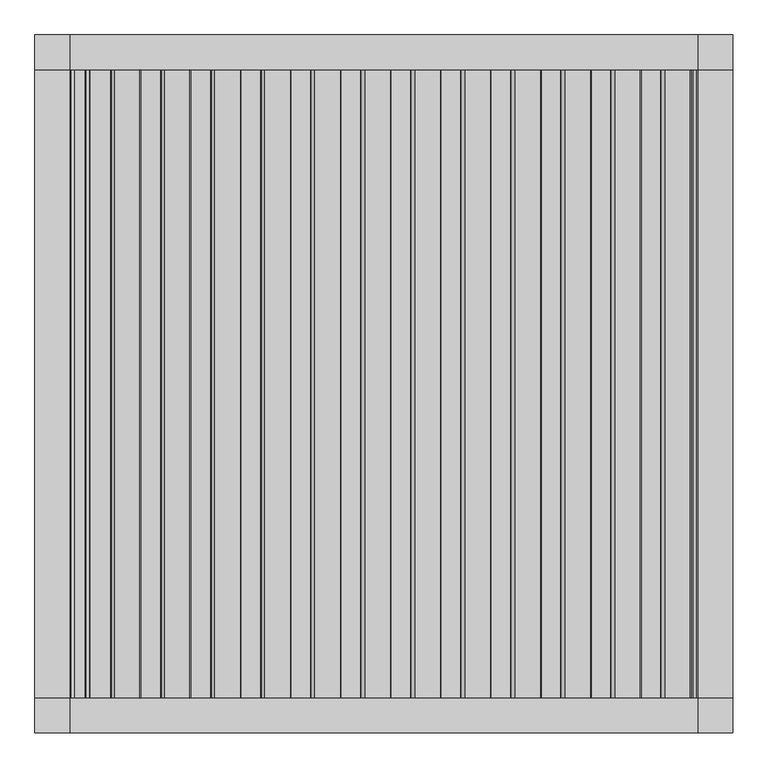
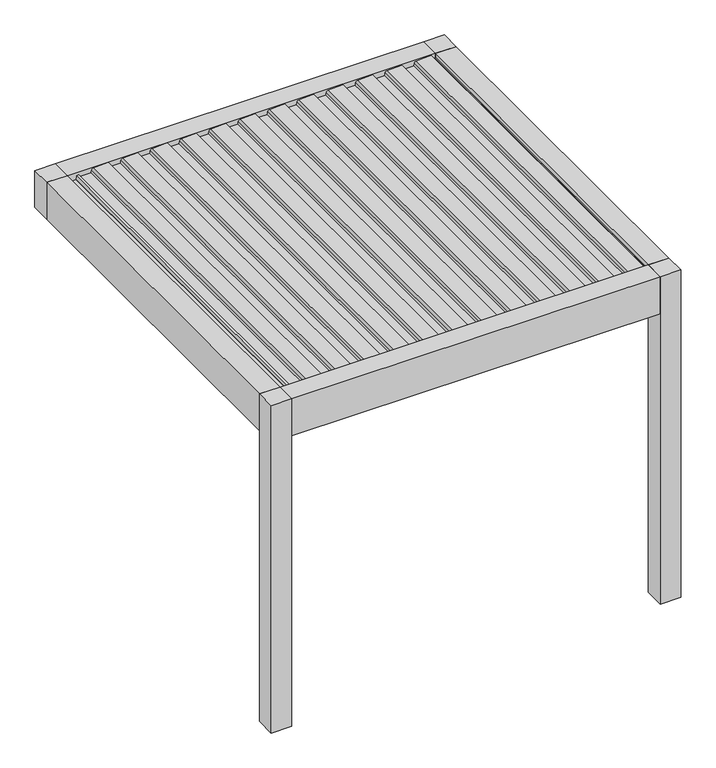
"""IFC4 building model written with IfcOpenShell, lengths in millimetres: proxy geometry, Renson_Amani_Patio_Cover : Renson_Amani_Patio_Cover."""

import ifcopenshell
import ifcopenshell.guid

model = None  # the IFC model being written
_history = None  # IfcOwnerHistory: only IFC2X3 demands one
_inside = {}  # id of a spatial element -> (the spatial element, [elements in it])
_under = {}  # id of a project, library or spatial element -> (it, [spatial elements below it])
_declared = {}  # id of a project -> (the project, [libraries it declares])
_typed = {}  # id of a type object -> (the type object, [elements of that type])
_made_of = {}  # id of a material, layer set ... -> (it, [elements and type objects made of it])


def new_model(schema):
    """Start an empty IFC model of exactly this schema.

    Asked for "IFC4X3", IfcOpenShell would pick the latest addendum, in which some entities
    have other attributes; the version numbers below select the first issue.
    IFC2X3 requires an IfcOwnerHistory on every rooted entity: one is made here for all.
    """
    global model, _history
    if schema == "IFC4X3":
        model = ifcopenshell.file(schema_version=(4, 3, 0, 0))
    else:
        model = ifcopenshell.file(schema=schema)
    _inside.clear()
    _under.clear()
    _declared.clear()
    _typed.clear()
    _made_of.clear()
    _history = None
    if model.schema == "IFC2X3":
        org = make("IfcOrganization", Name="unknown")
        user = make(
            "IfcPersonAndOrganization",
            ThePerson=make("IfcPerson", FamilyName="unknown"),
            TheOrganization=org,
        )
        app = make(
            "IfcApplication",
            ApplicationDeveloper=org,
            Version="unknown",
            ApplicationFullName="unknown",
            ApplicationIdentifier="unknown",
        )
        _history = make(
            "IfcOwnerHistory",
            OwningUser=user,
            OwningApplication=app,
            ChangeAction="ADDED",
            CreationDate=0,
        )
    return model


def make(cls, **values):
    """One entity of the class cls with the attributes given. An attribute that is None is left unset."""
    return model.create_entity(
        cls, **{name: value for name, value in values.items() if value is not None}
    )


def rooted(cls, **values):
    """An entity with a GlobalId (a new one), such as an element, a storey or a relation."""
    return make(cls, GlobalId=ifcopenshell.guid.new(), OwnerHistory=_history, **values)


def si_unit(unit_type, name, prefix=None):
    """IfcSIUnit, for example si_unit("LENGTHUNIT", "METRE", prefix="MILLI")."""
    return make("IfcSIUnit", UnitType=unit_type, Prefix=prefix, Name=name)


def assignment(units):
    """IfcUnitAssignment: the units of a project."""
    return None if units is None else make("IfcUnitAssignment", Units=units)


def point(xyz):
    """IfcCartesianPoint."""
    return None if xyz is None else make("IfcCartesianPoint", Coordinates=xyz)


def direction(xyz):
    """IfcDirection."""
    return None if xyz is None else make("IfcDirection", DirectionRatios=xyz)


def frame(location, z_axis=None, x_axis=None):
    """IfcAxis2Placement3D, a coordinate frame: its origin and axes. An axis left out is left unset."""
    return make(
        "IfcAxis2Placement3D",
        Location=point(location),
        Axis=direction(z_axis),
        RefDirection=direction(x_axis),
    )


def frame_2d(location, x_axis=None):
    """IfcAxis2Placement2D, a coordinate frame in the plane: its origin and x axis."""
    return make(
        "IfcAxis2Placement2D", Location=point(location), RefDirection=direction(x_axis)
    )


def origin():
    """The frame at (0, 0, 0) with its axes left unset."""
    return frame((0.0, 0.0, 0.0))


def origin_with_axes():
    """The frame at (0, 0, 0) with the z axis (0, 0, 1) and the x axis (1, 0, 0) written out."""
    return frame((0.0, 0.0, 0.0), z_axis=(0.0, 0.0, 1.0), x_axis=(1.0, 0.0, 0.0))


def place(relative_to, where):
    """IfcLocalPlacement: puts the frame where relative to a parent placement (None: the world)."""
    return make(
        "IfcLocalPlacement", PlacementRelTo=relative_to, RelativePlacement=where
    )


def context(
    kind, dimensions, precision=None, world=None, true_north=None, identifier=None
):
    """IfcGeometricRepresentationContext, for example the 3D "Model" context."""
    return make(
        "IfcGeometricRepresentationContext",
        ContextIdentifier=identifier,
        ContextType=kind,
        CoordinateSpaceDimension=dimensions,
        Precision=precision,
        WorldCoordinateSystem=world,
        TrueNorth=true_north,
    )


def project(units=None, contexts=None):
    """IfcProject with its units and contexts."""
    return rooted(
        "IfcProject",
        Name="project",
        RepresentationContexts=contexts,
        UnitsInContext=assignment(units),
    )


def spatial(cls, under=None, at=None, **own):
    """A site, building, storey or space (cls), placed at a placement, below another one or the project."""
    s = rooted(cls, ObjectPlacement=at, **own)
    if under is not None:
        _under.setdefault(under.id(), (under, []))[1].append(s)
    return s


def polyline(points):
    """IfcPolyline through the points."""
    return make("IfcPolyline", Points=[point(p) for p in points])


def circle_curve(where, radius):
    """IfcCircle in the frame where."""
    return make("IfcCircle", Position=where, Radius=radius)


def trimmed(basis, trim1, trim2, sense, master):
    """IfcTrimmedCurve: the piece of a basis curve between two trims."""
    return make(
        "IfcTrimmedCurve",
        BasisCurve=basis,
        Trim1=trim1,
        Trim2=trim2,
        SenseAgreement=sense,
        MasterRepresentation=master,
    )


def segment(curve, same_sense, transition):
    """IfcCompositeCurveSegment."""
    return make(
        "IfcCompositeCurveSegment",
        Transition=transition,
        SameSense=same_sense,
        ParentCurve=curve,
    )


def composite_curve(segments, self_intersect=None):
    """IfcCompositeCurve: segments joined end to end."""
    return make("IfcCompositeCurve", Segments=segments, SelfIntersect=self_intersect)


def outline(outer, holes=None, kind="AREA"):
    """IfcArbitraryClosedProfileDef: a profile drawn as a closed curve; with holes, ...WithVoids."""
    if holes is None:
        return make("IfcArbitraryClosedProfileDef", ProfileType=kind, OuterCurve=outer)
    return make(
        "IfcArbitraryProfileDefWithVoids",
        ProfileType=kind,
        OuterCurve=outer,
        InnerCurves=holes,
    )


def extrude(swept, where, along, depth):
    """IfcExtrudedAreaSolid: the profile swept, set in the frame where, extruded along a direction by depth."""
    return make(
        "IfcExtrudedAreaSolid",
        SweptArea=swept,
        Position=where,
        ExtrudedDirection=direction(along),
        Depth=depth,
    )


def shape(context_of_items, identifier, shape_type, items):
    """IfcShapeRepresentation: the items that make up one representation, for example the "Body"."""
    return make(
        "IfcShapeRepresentation",
        ContextOfItems=context_of_items,
        RepresentationIdentifier=identifier,
        RepresentationType=shape_type,
        Items=items,
    )


def source(mapping_origin, context_of_items, identifier, shape_type, items):
    """IfcRepresentationMap: a shape defined once, which mapped items show again and again."""
    return make(
        "IfcRepresentationMap",
        MappingOrigin=mapping_origin,
        MappedRepresentation=shape(context_of_items, identifier, shape_type, items),
    )


def transform(
    local_origin,
    x_axis=None,
    y_axis=None,
    z_axis=None,
    scale=None,
    scale2=None,
    scale3=None,
    uniform=True,
):
    """IfcCartesianTransformationOperator3D, or its non-uniform kind. x_axis, y_axis, z_axis: its Axis1, 2, 3."""
    if uniform:
        return make(
            "IfcCartesianTransformationOperator3D",
            Axis1=direction(x_axis),
            Axis2=direction(y_axis),
            LocalOrigin=point(local_origin),
            Scale=scale,
            Axis3=direction(z_axis),
        )
    return make(
        "IfcCartesianTransformationOperator3DnonUniform",
        Axis1=direction(x_axis),
        Axis2=direction(y_axis),
        LocalOrigin=point(local_origin),
        Scale=scale,
        Axis3=direction(z_axis),
        Scale2=scale2,
        Scale3=scale3,
    )


def mapped(mapping_source, mapping_target):
    """IfcMappedItem: shows the shape of a source again, moved by a transform."""
    return make(
        "IfcMappedItem", MappingSource=mapping_source, MappingTarget=mapping_target
    )


def made_of(thing, what):
    """Note that an element or type object is made of a material, layer set ...; save() writes the relation."""
    if what is not None:
        _made_of.setdefault(what.id(), (what, []))[1].append(thing)
    return thing


def element(
    cls,
    number,
    at=None,
    inside=None,
    cuts=None,
    type_object=None,
    material=None,
    context=None,
    identifier="Body",
    shape_type=None,
    held_by="IfcProductDefinitionShape",
    body=None,
    shapes=None,
    **own,
):
    """One element of the class cls, such as IfcWall. Its Tag is "e" and its number.

    at: its placement. inside: the storey or other place that contains it. cuts: it is an
    opening in that element (IfcRelVoidsElement). A single representation is given by context,
    identifier, shape_type and body (its items); several are given by shapes. held_by: the class
    of the entity that holds the representations. save() writes the other relations.
    """
    e = rooted(cls, Tag="e%d" % number, ObjectPlacement=at, **own)
    if body is not None:
        shapes = [shape(context, identifier, shape_type, body)]
    if shapes is not None:
        e.Representation = make(held_by, Representations=shapes)
    if inside is not None:
        _inside.setdefault(inside.id(), (inside, []))[1].append(e)
    if cuts is not None:
        rooted(
            "IfcRelVoidsElement", RelatingBuildingElement=cuts, RelatedOpeningElement=e
        )
    if type_object is not None:
        _typed.setdefault(type_object.id(), (type_object, []))[1].append(e)
    return made_of(e, material)


def aggregate(whole, parts):
    """IfcRelAggregates: a whole, such as a stair, and the parts it consists of."""
    return rooted("IfcRelAggregates", RelatingObject=whole, RelatedObjects=parts)


def save(model, path):
    """Write the relations noted so far, then the file.

    IfcRelAggregates (storeys below a building ...), IfcRelContainedInSpatialStructure (elements
    in a storey), IfcRelDefinesByType, IfcRelAssociatesMaterial and IfcRelDeclares: one each for
    every whole, place, type object, material and project.
    """
    for whole, parts in _under.values():
        aggregate(whole, parts)
    for where, things in _inside.values():
        rooted(
            "IfcRelContainedInSpatialStructure",
            RelatedElements=things,
            RelatingStructure=where,
        )
    for kind, things in _typed.values():
        rooted("IfcRelDefinesByType", RelatedObjects=things, RelatingType=kind)
    for what, things in _made_of.values():
        rooted("IfcRelAssociatesMaterial", RelatedObjects=things, RelatingMaterial=what)
    for by, libraries in _declared.values():
        rooted("IfcRelDeclares", RelatingContext=by, RelatedDefinitions=libraries)
    model.write(path)


def generic_models_5084beef(model_context):
    return source(origin(), model_context, "Body", "SweptSolid", [
        extrude(outline(composite_curve([segment(polyline([(2483.35, 1073.7289238), (2511.01198, 1076.1490335), (2512.3970364, 1104.984284), (2531.8911096, 1101.5469529), (2526.6075693, 991.549838)]), True, "CONTINUOUS"), segment(trimmed(circle_curve(frame_2d((2511.6248435, 992.26951)), 15.0), [point((2526.6075693, 991.549838))], [point((2514.2295662, 977.4973937))], False, "CARTESIAN"), True, "CONTINUOUS"), segment(polyline([(2514.2295662, 977.4973937), (2495.0, 974.1067023), (2495.0, 886.3709263), (2512.0788237, 883.3594689), (2511.3450182, 868.0824984), (2483.35, 865.6332517), (2483.35, 1073.7289238)]), True, "CONTINUOUS")], self_intersect=False)), frame((0.0, -1350.0, 0.0), z_axis=(0.0, 1.0, 0.0), x_axis=(0.0, 0.0, 1.0)), (0.0, 0.0, 1.0), 2700.0),
        extrude(outline(composite_curve([segment(polyline([(2483.35, 858.7132078), (2511.01198, 861.1333174), (2512.3970364, 889.9685679), (2531.8911096, 886.5312368), (2526.6075693, 776.534122)]), True, "CONTINUOUS"), segment(trimmed(circle_curve(frame_2d((2511.6248435, 777.2537939)), 15.0), [point((2526.6075693, 776.534122))], [point((2514.2295662, 762.4816776))], False, "CARTESIAN"), True, "CONTINUOUS"), segment(polyline([(2514.2295662, 762.4816776), (2495.0, 759.0909863), (2495.0, 671.3552102), (2512.0788237, 668.3437528), (2511.3450182, 653.0667824), (2483.35, 650.6175356), (2483.35, 858.7132078)]), True, "CONTINUOUS")], self_intersect=False)), frame((0.0, -1350.0, 0.0), z_axis=(0.0, 1.0, 0.0), x_axis=(0.0, 0.0, 1.0)), (0.0, 0.0, 1.0), 2700.0),
        extrude(outline(composite_curve([segment(polyline([(2483.35, 643.6974917), (2511.01198, 646.1176014), (2512.3970364, 674.9528519), (2531.8911096, 671.5155208), (2526.6075693, 561.5184059)]), True, "CONTINUOUS"), segment(trimmed(circle_curve(frame_2d((2511.6248435, 562.2380779)), 15.0), [point((2526.6075693, 561.5184059))], [point((2514.2295662, 547.4659616))], False, "CARTESIAN"), True, "CONTINUOUS"), segment(polyline([(2514.2295662, 547.4659616), (2495.0, 544.0752702), (2495.0, 456.3394942), (2512.0788237, 453.3280368), (2511.3450182, 438.0510663), (2483.35, 435.6018196), (2483.35, 643.6974917)]), True, "CONTINUOUS")], self_intersect=False)), frame((0.0, -1350.0, 0.0), z_axis=(0.0, 1.0, 0.0), x_axis=(0.0, 0.0, 1.0)), (0.0, 0.0, 1.0), 2700.0),
        extrude(outline(composite_curve([segment(polyline([(2483.35, 428.6817757), (2511.01198, 431.1018854), (2512.3970364, 459.9371358), (2531.8911096, 456.4998047), (2526.6075693, 346.5026899)]), True, "CONTINUOUS"), segment(trimmed(circle_curve(frame_2d((2511.6248435, 347.2223618)), 15.0), [point((2526.6075693, 346.5026899))], [point((2514.2295662, 332.4502455))], False, "CARTESIAN"), True, "CONTINUOUS"), segment(polyline([(2514.2295662, 332.4502455), (2495.0, 329.0595542), (2495.0, 241.3237782), (2512.0788237, 238.3123207), (2511.3450182, 223.0353503), (2483.35, 220.5861035), (2483.35, 428.6817757)]), True, "CONTINUOUS")], self_intersect=False)), frame((0.0, -1350.0, 0.0), z_axis=(0.0, 1.0, 0.0), x_axis=(0.0, 0.0, 1.0)), (0.0, 0.0, 1.0), 2700.0),
        extrude(outline(composite_curve([segment(polyline([(2483.35, 213.6660597), (2511.01198, 216.0861693), (2512.3970364, 244.9214198), (2531.8911096, 241.4840887), (2526.6075693, 131.4869738)]), True, "CONTINUOUS"), segment(trimmed(circle_curve(frame_2d((2511.6248435, 132.2066458)), 15.0), [point((2526.6075693, 131.4869738))], [point((2514.2295662, 117.4345295))], False, "CARTESIAN"), True, "CONTINUOUS"), segment(polyline([(2514.2295662, 117.4345295), (2495.0, 114.0438381), (2495.0, 26.3080621), (2512.0788237, 23.2966047), (2511.3450182, 8.0196342), (2483.35, 5.5703875), (2483.35, 213.6660597)]), True, "CONTINUOUS")], self_intersect=False)), frame((0.0, -1350.0, 0.0), z_axis=(0.0, 1.0, 0.0), x_axis=(0.0, 0.0, 1.0)), (0.0, 0.0, 1.0), 2700.0),
        extrude(outline(composite_curve([segment(polyline([(2483.35, -1.3496564), (2511.01198, 1.0704533), (2512.3970364, 29.9057037), (2531.8911096, 26.4683726), (2526.6075693, -83.5287422)]), True, "CONTINUOUS"), segment(trimmed(circle_curve(frame_2d((2511.6248435, -82.8090703)), 15.0), [point((2526.6075693, -83.5287422))], [point((2514.2295662, -97.5811866))], False, "CARTESIAN"), True, "CONTINUOUS"), segment(polyline([(2514.2295662, -97.5811866), (2495.0, -100.9718779), (2495.0, -188.7076539), (2512.0788237, -191.7191114), (2511.3450182, -206.9960818), (2483.35, -209.4453286), (2483.35, -1.3496564)]), True, "CONTINUOUS")], self_intersect=False)), frame((0.0, -1350.0, 0.0), z_axis=(0.0, 1.0, 0.0), x_axis=(0.0, 0.0, 1.0)), (0.0, 0.0, 1.0), 2700.0),
        extrude(outline(composite_curve([segment(polyline([(2483.35, -216.3653724), (2511.01198, -213.9452628), (2512.3970364, -185.1100123), (2531.8911096, -188.5473434), (2526.6075693, -298.5444582)]), True, "CONTINUOUS"), segment(trimmed(circle_curve(frame_2d((2511.6248435, -297.8247863)), 15.0), [point((2526.6075693, -298.5444582))], [point((2514.2295662, -312.5969026))], False, "CARTESIAN"), True, "CONTINUOUS"), segment(polyline([(2514.2295662, -312.5969026), (2495.0, -315.987594), (2495.0, -403.72337), (2512.0788237, -406.7348274), (2511.3450182, -422.0117979), (2483.35, -424.4610446), (2483.35, -216.3653724)]), True, "CONTINUOUS")], self_intersect=False)), frame((0.0, -1350.0, 0.0), z_axis=(0.0, 1.0, 0.0), x_axis=(0.0, 0.0, 1.0)), (0.0, 0.0, 1.0), 2700.0),
        extrude(outline(composite_curve([segment(polyline([(2483.35, -431.3810885), (2511.01198, -428.9609788), (2512.3970364, -400.1257284), (2531.8911096, -403.5630594), (2526.6075693, -513.5601743)]), True, "CONTINUOUS"), segment(trimmed(circle_curve(frame_2d((2511.6248435, -512.8405024)), 15.0), [point((2526.6075693, -513.5601743))], [point((2514.2295662, -527.6126187))], False, "CARTESIAN"), True, "CONTINUOUS"), segment(polyline([(2514.2295662, -527.6126187), (2495.0, -531.00331), (2495.0, -618.739086), (2512.0788237, -621.7505434), (2511.3450182, -637.0275139), (2483.35, -639.4767606), (2483.35, -431.3810885)]), True, "CONTINUOUS")], self_intersect=False)), frame((0.0, -1350.0, 0.0), z_axis=(0.0, 1.0, 0.0), x_axis=(0.0, 0.0, 1.0)), (0.0, 0.0, 1.0), 2700.0),
        extrude(outline(composite_curve([segment(polyline([(2483.35, -646.3968045), (2511.01198, -643.9766949), (2512.3970364, -615.1414444), (2531.8911096, -618.5787755), (2526.6075693, -728.5758903)]), True, "CONTINUOUS"), segment(trimmed(circle_curve(frame_2d((2511.6248435, -727.8562184)), 15.0), [point((2526.6075693, -728.5758903))], [point((2514.2295662, -742.6283347))], False, "CARTESIAN"), True, "CONTINUOUS"), segment(polyline([(2514.2295662, -742.6283347), (2495.0, -746.019026), (2495.0, -833.7548021), (2512.0788237, -836.7662595), (2511.3450182, -852.04323), (2483.35, -854.4924767), (2483.35, -646.3968045)]), True, "CONTINUOUS")], self_intersect=False)), frame((0.0, -1350.0, 0.0), z_axis=(0.0, 1.0, 0.0), x_axis=(0.0, 0.0, 1.0)), (0.0, 0.0, 1.0), 2700.0),
        extrude(outline(composite_curve([segment(polyline([(2483.35, -861.4125206), (2511.01198, -858.9924109), (2512.3970364, -830.1571605), (2531.8911096, -833.5944915), (2526.6075693, -943.5916064)]), True, "CONTINUOUS"), segment(trimmed(circle_curve(frame_2d((2511.6248435, -942.8719345)), 15.0), [point((2526.6075693, -943.5916064))], [point((2514.2295662, -957.6440508))], False, "CARTESIAN"), True, "CONTINUOUS"), segment(polyline([(2514.2295662, -957.6440508), (2495.0, -961.0347421), (2495.0, -1048.7705181), (2512.0788237, -1051.7819755), (2511.3450182, -1067.058946), (2483.35, -1069.5081927), (2483.35, -861.4125206)]), True, "CONTINUOUS")], self_intersect=False)), frame((0.0, -1350.0, 0.0), z_axis=(0.0, 1.0, 0.0), x_axis=(0.0, 0.0, 1.0)), (0.0, 0.0, 1.0), 2700.0),
        extrude(outline(composite_curve([segment(polyline([(2483.35, 1288.7446399), (2511.01198, 1291.1647495), (2512.3970364, 1320.0), (2531.8911096, 1316.5626689), (2526.6075693, 1206.5655541)]), True, "CONTINUOUS"), segment(trimmed(circle_curve(frame_2d((2511.6248435, 1207.285226)), 15.0), [point((2526.6075693, 1206.5655541))], [point((2514.2295662, 1192.5131097))], False, "CARTESIAN"), True, "CONTINUOUS"), segment(polyline([(2514.2295662, 1192.5131097), (2495.0, 1189.1224184), (2495.0, 1101.3866423), (2512.0788237, 1098.3751849), (2511.3450182, 1083.0982144), (2483.35, 1080.6489677), (2483.35, 1288.7446399)]), True, "CONTINUOUS")], self_intersect=False)), frame((0.0, -1350.0, 0.0), z_axis=(0.0, 1.0, 0.0), x_axis=(0.0, 0.0, 1.0)), (0.0, 0.0, 1.0), 2700.0),
        extrude(outline(composite_curve([segment(polyline([(2483.35, -1076.4282366), (2511.01198, -1074.008127), (2512.3970364, -1045.1728765), (2531.8911096, -1048.6102076), (2526.6075693, -1158.6073224)]), True, "CONTINUOUS"), segment(trimmed(circle_curve(frame_2d((2511.6248435, -1157.8876505)), 15.0), [point((2526.6075693, -1158.6073224))], [point((2514.2295662, -1172.6597668))], False, "CARTESIAN"), True, "CONTINUOUS"), segment(polyline([(2514.2295662, -1172.6597668), (2495.0, -1176.0504581), (2495.0, -1263.7862342), (2512.0788237, -1266.7976916), (2511.3450182, -1282.0746621), (2483.35, -1284.5239088), (2483.35, -1076.4282366)]), True, "CONTINUOUS")], self_intersect=False)), frame((0.0, -1350.0, 0.0), z_axis=(0.0, 1.0, 0.0), x_axis=(0.0, 0.0, 1.0)), (0.0, 0.0, 1.0), 2700.0),
        extrude(outline(polyline([(-1350.0, 1500.0), (-1350.0, 1350.0), (-1500.0, 1350.0), (-1500.0, 1500.0), (-1350.0, 1500.0)])), frame((0.0, 0.0, 2250.0), z_axis=(0.0, 0.0, 1.0), x_axis=(1.0, 0.0, 0.0)), (0.0, 0.0, 1.0), 285.0),
        extrude(outline(polyline([(1500.0, -1350.0), (1500.0, -1500.0), (1350.0, -1500.0), (1350.0, -1350.0), (1500.0, -1350.0)])), origin_with_axes(), (0.0, 0.0, 1.0), 2535.0),
        extrude(outline(polyline([(1500.0, 1500.0), (1500.0, 1350.0), (1350.0, 1350.0), (1350.0, 1500.0), (1500.0, 1500.0)])), origin_with_axes(), (0.0, 0.0, 1.0), 2535.0),
        extrude(outline(polyline([(-1350.0, -1350.0), (-1350.0, -1500.0), (-1500.0, -1500.0), (-1500.0, -1350.0), (-1350.0, -1350.0)])), origin_with_axes(), (0.0, 0.0, 1.0), 2535.0),
        extrude(outline(polyline([(2466.6559373, -1350.0), (2466.6559373, -1290.0), (2480.6555802, -1286.2487113), (2480.6555802, -1329.5940945), (2496.400763, -1345.0), (2504.2449277, -1345.0), (2504.6823598, -1350.0), (2466.6559373, -1350.0)])), frame((0.0, -1350.0, 0.0), z_axis=(0.0, 1.0, 0.0), x_axis=(0.0, 0.0, 1.0)), (0.0, 0.0, 1.0), 2700.0),
        extrude(outline(polyline([(-1350.0, -1350.0), (-1500.0, -1350.0), (-1500.0, 1350.0), (-1350.0, 1350.0), (-1350.0, -1350.0)])), frame((0.0, 0.0, 2250.0), z_axis=(0.0, 0.0, 1.0), x_axis=(1.0, 0.0, 0.0)), (0.0, 0.0, 1.0), 285.0),
        extrude(outline(polyline([(2535.0, 1500.0), (2535.0, 1350.0), (2504.6904658, 1350.0), (2504.2449277, 1345.0), (2496.400763, 1345.0), (2480.6555802, 1329.2544156), (2480.6555802, 1319.9090324), (2466.6559373, 1323.6603211), (2466.6559373, 1350.0), (2250.0, 1350.0), (2250.0, 1500.0), (2535.0, 1500.0)])), frame((0.0, -1350.0, 0.0), z_axis=(0.0, 1.0, 0.0), x_axis=(0.0, 0.0, 1.0)), (0.0, 0.0, 1.0), 2700.0),
        extrude(outline(polyline([(-1350.0, 2535.0), (-1350.0, 2322.0), (-1280.0000001, 2322.0), (-1280.0000001, 2250.0), (-1500.0, 2250.0), (-1500.0, 2535.0), (-1350.0, 2535.0)])), frame((-1350.0, 0.0, 0.0), z_axis=(1.0, 0.0, 0.0), x_axis=(0.0, 1.0, 0.0)), (0.0, 0.0, 1.0), 2700.0),
        extrude(outline(polyline([(1500.0, 2250.0), (1280.0000001, 2250.0), (1280.0000001, 2322.0), (1350.0, 2322.0), (1350.0, 2535.0), (1500.0, 2535.0), (1500.0, 2250.0)])), frame((-1350.0, 0.0, 0.0), z_axis=(1.0, 0.0, 0.0), x_axis=(0.0, 1.0, 0.0)), (0.0, 0.0, 1.0), 2700.0),
    ])


if __name__ == "__main__":
    model = new_model("IFC4")
    model_context = context("Model", 3, world=origin())
    ifc_project = project(units=[si_unit("LENGTHUNIT", "METRE", prefix="MILLI")], contexts=[model_context])
    site = spatial("IfcSite", under=ifc_project)
    building = spatial("IfcBuilding", under=site)
    placement = place(None, origin())
    generic_models_shape = generic_models_5084beef(model_context)
    element("IfcBuildingElementProxy", 1, Name="Renson_Amani_Patio_Cover : Renson_Amani_Patio_Cover", ObjectType="Renson_Amani_Patio_Cover : Renson_Amani_Patio_Cover", at=placement, inside=building, context=model_context, shape_type="MappedRepresentation", body=[
        mapped(generic_models_shape, transform((0.0, 0.0, 0.0), x_axis=(1.0, 0.0, 0.0), y_axis=(0.0, 1.0, 0.0), z_axis=(0.0, 0.0, 1.0))),
    ])
    save(model, "model.ifc")
